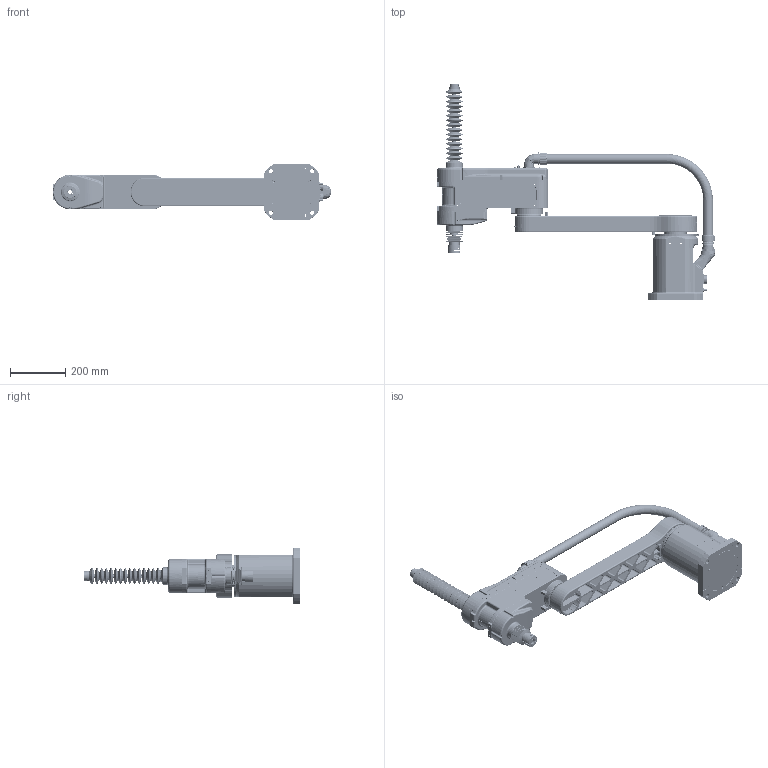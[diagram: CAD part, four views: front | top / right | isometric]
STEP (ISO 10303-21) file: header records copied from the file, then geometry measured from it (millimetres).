
FILE_DESCRIPTION (( 'STEP AP214' ), '1' );
FILE_NAME ('R4-0608F-00.STEP', '2023-06-10T08:39:10', ( 'iCura' ), ( 'ICOS' ), 'SwSTEP 2.0', 'SolidWorks 2018', '' );
FILE_SCHEMA (( 'AUTOMOTIVE_DESIGN' ));
Length unit declared in the file: millimetre
Products named in the file (7): R4-0608-2-00 ; R4-0608F-00; 软管接头; R4-0606-1-00; R4-0606-3-00; R4-0606F-4-00 ; 疏恇奪 0608
Assembly tree (6 placements, depth 2):
  R4-0608F-00
    R4-0606-1-00
    R4-0608-2-00 
    R4-0606-3-00
    R4-0606F-4-00 
    软管接头
    疏恇奪 0608
Bounding box: 1005.51 x 781.5 x 200 mm (x, y, z)
Volume: 275475.9 mm3; surface area: 1580098.5 mm2
Topology: 2 solids, 213 shells, 2710 faces, 9288 edges, 6677 vertices
Faces by surface type: cylinder 1124, plane 921, bspline 263, cone 209, torus 168, sphere 25
Full cylindrical faces by diameter (mm): 1 x18, 2.5 x31, 3.1 x2, 3.2 x8, 3.3 x16, 3.4 x24, 3.5 x48, 4 x6, 4.134 x1, 4.2 x18, 4.5 x16, 5 x2, 5.5 x33, 5.891 x2, 6 x14, 6.5 x4, 7 x17, 7.5 x2, 8 x24, 10 x5, 13 x2, 14 x7, 14.9 x1, 18 x1, 20 x2, 26 x1, 28.2 x2, 29 x2, 30 x4, 32 x3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
Entity records: 154372 total; most frequent: CARTESIAN_POINT 51133, DIRECTION 14839, ORIENTED_EDGE 13357, EDGE_CURVE 8330, VERTEX_POINT 6400, AXIS2_PLACEMENT_3D 5646, EDGE_LOOP 3948, LINE 3547
